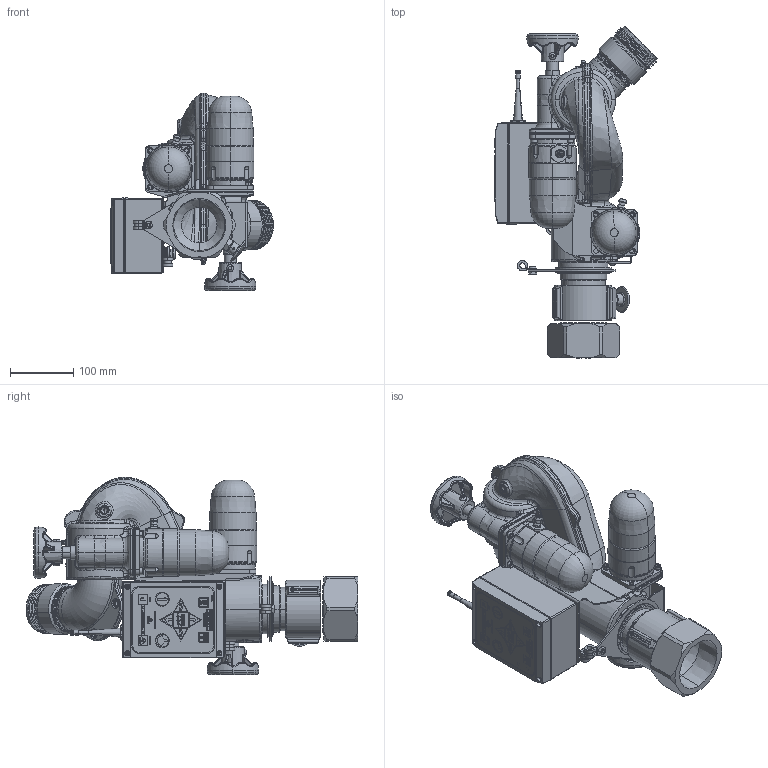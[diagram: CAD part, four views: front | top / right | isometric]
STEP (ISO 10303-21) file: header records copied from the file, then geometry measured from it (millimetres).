
FILE_DESCRIPTION (( 'STEP AP203' ), '1' );
FILE_NAME ('Y2-E91A_45_Up.STEP', '2014-07-03T15:49:58', ( '' ), ( '' ), 'SwSTEP 2.0', 'SolidWorks 2014', '' );
FILE_SCHEMA (( 'CONFIG_CONTROL_DESIGN' ));
Length unit declared in the file: inch
Products named in the file (1): Y2-E91A_45_Up
Bounding box: 256.68 x 523.5 x 311.29 mm (x, y, z)
Surface area: 653147 mm2 (no closed solid volume)
Topology: 0 solids, 208 shells, 2245 faces, 9965 edges, 7805 vertices
Faces by surface type: plane 715, cylinder 572, bspline 414, torus 273, cone 245, sphere 26
Entity records: 181500 total; most frequent: CARTESIAN_POINT 108228, ORIENTED_EDGE 14261, DIRECTION 12990, EDGE_CURVE 9953, VERTEX_POINT 7801, VECTOR 4640, LINE 4640, AXIS2_PLACEMENT_3D 4175
